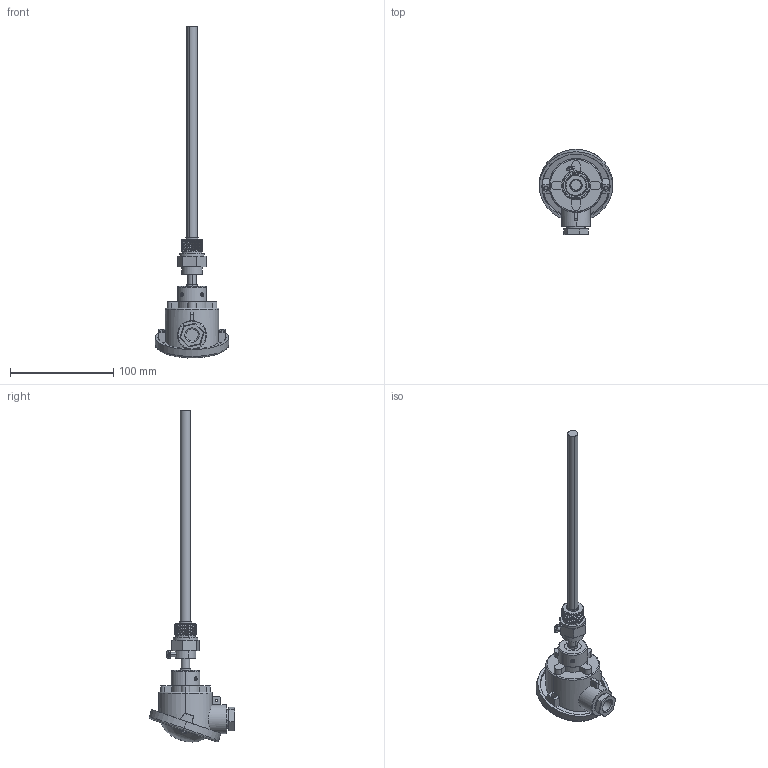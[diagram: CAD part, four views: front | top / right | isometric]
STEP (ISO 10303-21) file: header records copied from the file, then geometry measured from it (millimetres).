
FILE_DESCRIPTION (( 'STEP AP214' ), '1' );
FILE_NAME ('PT50J_250_200.STEP', '2017-11-21T19:19:28', ( '' ), ( '' ), 'SwSTEP 2.0', 'SolidWorks 2013', '' );
FILE_SCHEMA (( 'AUTOMOTIVE_DESIGN' ));
Length unit declared in the file: millimetre
Products named in the file (13): PT50J_250_200; Matka G1_2_jimka; stonek220; Sestava Hlavice_PT; stonek_8_250; Hlava; Pruchodka M20x1_5; jimka_220; Tìsnìní; ISO 1580 - M4 x 12 --- 12N_ISO 1580 - M4 x 12 --- 12N; ISO 7045 - M4 x 12 - Z --- 12N_ISO 7045 - M4 x 12 - Z --- 12N; Deklik; DIN 914 - M4 x 8-N_DIN 914 - M4 x 8-N
Assembly tree (14 placements, depth 3):
  PT50J_250_200
    Sestava Hlavice_PT
      Hlava
      Deklik
      Tìsnìní
      Pruchodka M20x1_5
    stonek_8_250
    DIN 914 - M4 x 8-N_DIN 914 - M4 x 8-N  x2
    jimka_220
      Matka G1_2_jimka
      stonek220
      ISO 7045 - M4 x 12 - Z --- 12N_ISO 7045 - M4 x 12 - Z --- 12N
    ISO 1580 - M4 x 12 --- 12N_ISO 1580 - M4 x 12 --- 12N  x2
Bounding box: 71 x 82.63 x 321.09 mm (x, y, z)
Volume: 95192.2 mm3; surface area: 69938.1 mm2
Topology: 17 solids, 17 shells, 581 faces, 1430 edges, 928 vertices
Faces by surface type: plane 275, cylinder 136, bspline 111, torus 30, cone 22, sphere 7
Entity records: 22942 total; most frequent: CARTESIAN_POINT 9944, ORIENTED_EDGE 2724, DIRECTION 2294, EDGE_CURVE 1362, VERTEX_POINT 888, AXIS2_PLACEMENT_3D 797, LINE 700, VECTOR 700
